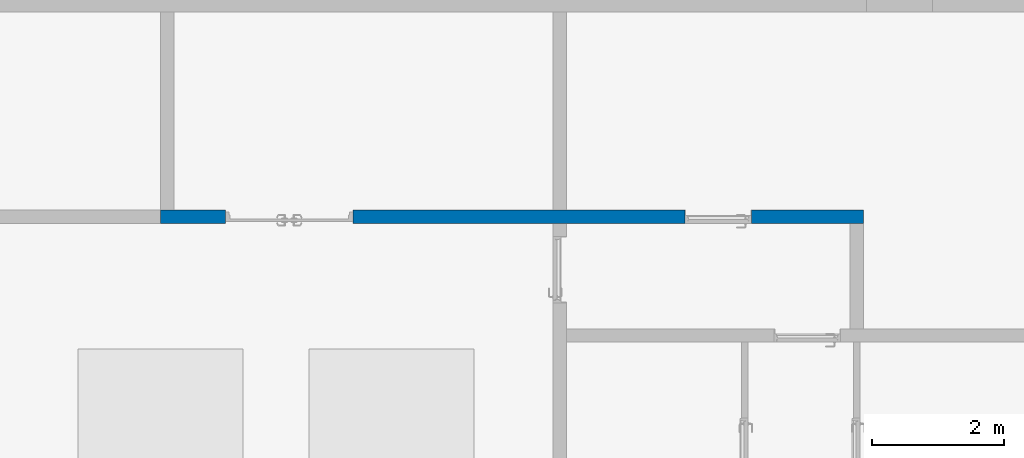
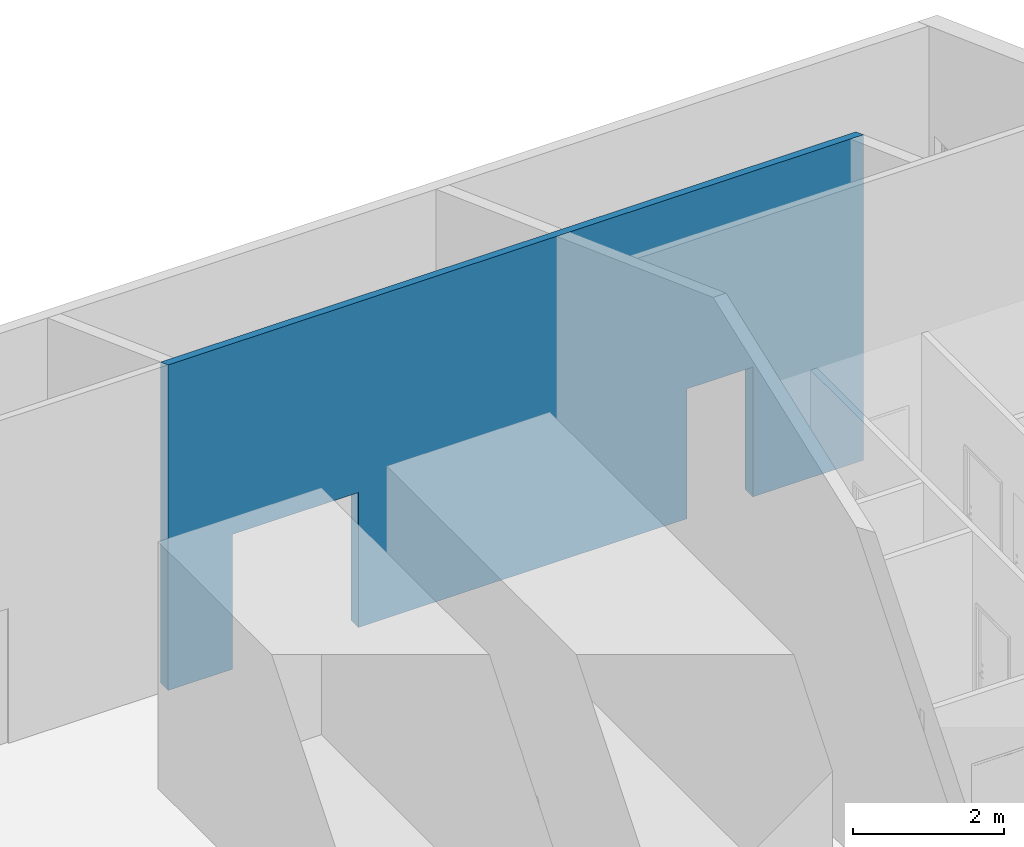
# One storey, part 14 of 23: 1 wall, 2 openings.
"""IFC2X3 building model written with IfcOpenShell, lengths in millimetres."""

from ifc_helpers import new_model, entity, si_unit, converted_unit, direction, frame, frame_2d, origin, place, context, subcontext, project, spatial, polyline, rectangle, extrude, clip, bounded_halfspace, material, layer, layer_set, layer_usage, type_object, element, save


model = new_model("IFC2X3")

# Units and contexts
model_context = context("Model", 3, precision=0.01, world=origin(), true_north=direction((6.123031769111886e-17, 1.0)))
body_context = subcontext(model_context, "Body", "Model", "MODEL_VIEW")
ifc_project = project(units=[si_unit("LENGTHUNIT", "METRE", prefix="MILLI"), converted_unit("PLANEANGLEUNIT", "DEGREE", entity("IfcPlaneAngleMeasure", 0.017453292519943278), si_unit("PLANEANGLEUNIT", "RADIAN"), dimensions=[0, 0, 0, 0, 0, 0, 0]), si_unit("AREAUNIT", "SQUARE_METRE")], contexts=[model_context])

# Site, building, storey
site_placement = place(None, frame((7776.576483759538, 118.3519876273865, 0.0)))
site = spatial("IfcSite", under=ifc_project, at=site_placement, Name="Default", CompositionType="ELEMENT")
building_placement = place(site_placement, origin())
building = spatial("IfcBuilding", under=site, at=building_placement, Name="Bygning (endres i Project Information)", CompositionType="ELEMENT")
storey_placement = place(building_placement, frame((0.0, 0.0, 19000.0)))
storey = spatial("IfcBuildingStorey", under=building, at=storey_placement, Name="Plan 01", CompositionType="ELEMENT", Elevation=19000.0)

# Wall, openings
ifc_material = material(Name="Default Wall")
ifc_layer = layer(ifc_material, 200.0)
ifc_layer_set = layer_set([ifc_layer], Name="Basic Wall:Generic - 200mm")
ifc_layer_usage = layer_usage(ifc_layer_set, "AXIS2", "NEGATIVE", 100.0)
wall_type = type_object("IfcWallType", Name="Basic Wall:Generic - 200mm", PredefinedType="STANDARD", material=ifc_layer_set)
wall_placement = place(storey_placement, frame((36724.00137486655, 31197.757305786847, 0.0), z_axis=(0.0, 0.0, 1.0), x_axis=(-1.0, 0.0, 0.0)))
wall = element("IfcWallStandardCase", 1, at=wall_placement, inside=storey, type_object=wall_type, material=ifc_layer_usage, Name="Basic Wall:Generic - 200mm", ObjectType="Basic Wall:Generic - 200mm", context=body_context, shape_type="Clipping", body=[
    clip(extrude(rectangle(XDim=10650.000000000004, YDim=199.99999999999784, at=frame_2d((5325.000000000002, 0.0), x_axis=(1.0, 0.0))), origin(), (0.0, 0.0, 1.0), 5272.39263803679), bounded_halfspace(frame((0.0, -100.0, 5198.773006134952), z_axis=(0.0, -0.34543854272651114, 0.9384413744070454), x_axis=(1.0, 0.0, 0.0)), False, frame((0.0, -100.0, 5198.773006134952)), polyline([(0.0, 0.0), (4500.0, 0.0), (4700.0, 0.0), (10450.0, 0.0), (10650.0, 0.0), (10650.0, 200.0), (4700.0, 200.0), (4500.0, 200.0), (200.0, 200.0), (0.0, 200.0), (0.0, 0.0)]))),
])
opening_1_placement = place(wall_placement, frame((7734.799999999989, -100.0, 0.0)))
element("IfcOpeningElement", 2, at=opening_1_placement, cuts=wall, Name="Double Door Simple:1930mm x 2184mm - ion alu:1", ObjectType="Opening", context=body_context, shape_type="SweptSolid", body=[
    extrude(rectangle(XDim=1930.4000000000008, YDim=2184.4, at=frame_2d((1092.2000000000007, 965.2000000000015), x_axis=(0.0, -1.0))), frame((0.0, 0.0, 0.0), z_axis=(0.0, 1.0, 0.0), x_axis=(0.0, 0.0, 1.0)), (0.0, 0.0, 1.0), 200.0),
])
opening_2_placement = place(wall_placement, frame((1695.0, -100.0, 0.0)))
element("IfcOpeningElement", 3, at=opening_2_placement, cuts=wall, Name="Single Door Simple:986 x 2089 mm - M10 x M21:1", ObjectType="Opening", context=body_context, shape_type="SweptSolid", body=[
    extrude(rectangle(XDim=2100.9999999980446, YDim=1009.9999999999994, at=frame_2d((1050.4999999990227, 504.9999999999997), x_axis=(1.0, 0.0))), frame((0.0, 0.0, 0.0), z_axis=(0.0, 1.0, 0.0), x_axis=(0.0, 0.0, 1.0)), (0.0, 0.0, 1.0), 200.0),
])

save(model, "model.ifc")
